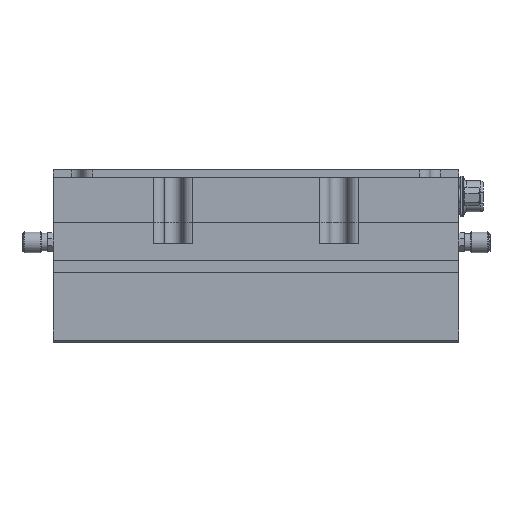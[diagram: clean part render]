
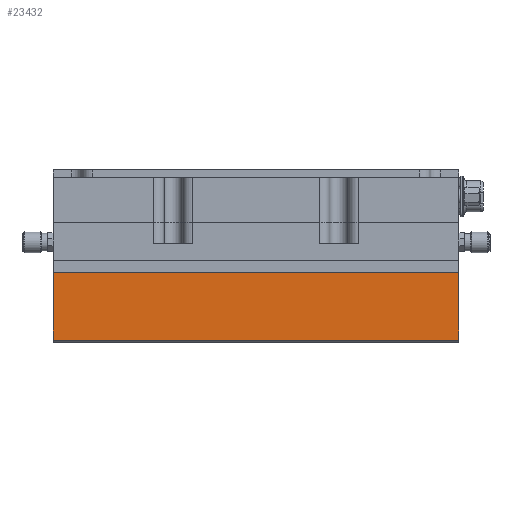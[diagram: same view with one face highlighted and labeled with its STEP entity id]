
A CAD part, front view. The second image highlights one B-rep face of the part: STEP entity #23432.
In plain terms, the highlighted planar face has unit normal (0, -1, 0) as drawn and (1, 0, 0) by its records, which use the part's own axes.
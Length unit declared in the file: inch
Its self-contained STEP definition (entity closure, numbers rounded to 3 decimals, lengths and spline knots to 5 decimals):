
#22559=CARTESIAN_POINT('',(0.97,0.075,0.575));
#22560=VERTEX_POINT('',#22559);
#22561=CARTESIAN_POINT('',(0.97,0.075,-4.325));
#22562=VERTEX_POINT('',#22561);
#22563=CARTESIAN_POINT('',(0.97,0.075,0.575));
#22564=DIRECTION('',(0.0,0.0,-1.0));
#22565=VECTOR('',#22564,4.9);
#22566=LINE('',#22563,#22565);
#22567=EDGE_CURVE('',#22560,#22562,#22566,.T.);
#22920=CARTESIAN_POINT('',(0.97,0.89,0.575));
#22921=VERTEX_POINT('',#22920);
#22922=CARTESIAN_POINT('',(0.97,0.075,0.575));
#22923=DIRECTION('',(0.0,1.0,0.0));
#22924=VECTOR('',#22923,0.815);
#22925=LINE('',#22922,#22924);
#22926=EDGE_CURVE('',#22560,#22921,#22925,.T.);
#23398=CARTESIAN_POINT('',(0.97,0.89,-4.325));
#23399=VERTEX_POINT('',#23398);
#23407=CARTESIAN_POINT('',(0.97,0.89,-4.325));
#23408=DIRECTION('',(0.0,-1.0,0.0));
#23409=VECTOR('',#23408,0.815);
#23410=LINE('',#23407,#23409);
#23411=EDGE_CURVE('',#23399,#22562,#23410,.T.);
#23416=CARTESIAN_POINT('',(0.97,0.89,0.0));
#23417=DIRECTION('',(1.0,0.0,0.0));
#23418=DIRECTION('',(0.0,0.0,-1.0));
#23419=AXIS2_PLACEMENT_3D('',#23416,#23417,#23418);
#23420=PLANE('',#23419);
#23421=ORIENTED_EDGE('',*,*,#22567,.T.);
#23422=ORIENTED_EDGE('',*,*,#23411,.F.);
#23423=CARTESIAN_POINT('',(0.97,0.89,0.575));
#23424=DIRECTION('',(0.0,0.0,-1.0));
#23425=VECTOR('',#23424,4.9);
#23426=LINE('',#23423,#23425);
#23427=EDGE_CURVE('',#22921,#23399,#23426,.T.);
#23428=ORIENTED_EDGE('',*,*,#23427,.F.);
#23429=ORIENTED_EDGE('',*,*,#22926,.F.);
#23430=EDGE_LOOP('',(#23421,#23422,#23428,#23429));
#23431=FACE_OUTER_BOUND('',#23430,.T.);
#23432=ADVANCED_FACE('',(#23431),#23420,.T.);
